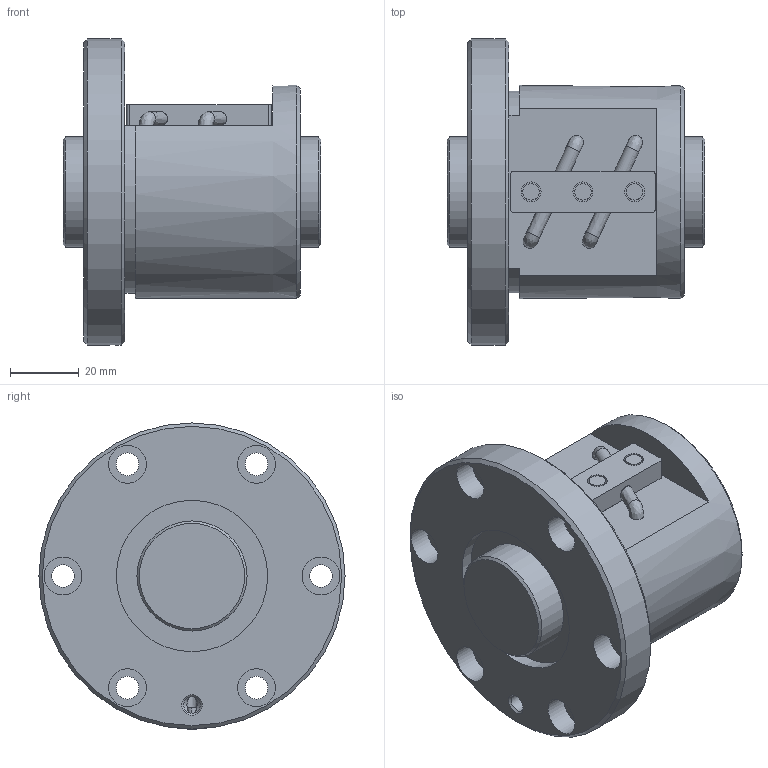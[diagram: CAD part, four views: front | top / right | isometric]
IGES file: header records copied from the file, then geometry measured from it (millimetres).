
Start section: Data from Parasolid IGES Translator 26.0.171, Copyright(c) 2006 Siemens PLM Software. All Rights Reserved.
Global section: file name: BNF3206V-5RRG1+75LC0_000_rev.igs; native system: By Siemens PLM Incorporated; preprocessor: XPlus GENERIC/IGES 26.0.171; author: Noname; organization: Noname; date: 20240806.073643; units: millimetre
Bounding box: 75 x 89 x 89 mm (x, y, z)
Surface area: 43564.6 mm2 (no closed solid volume)
Topology: 0 solids, 0 shells, 80 faces, 386 edges, 342 vertices
Faces by surface type: revolution 51, extrusion 29
